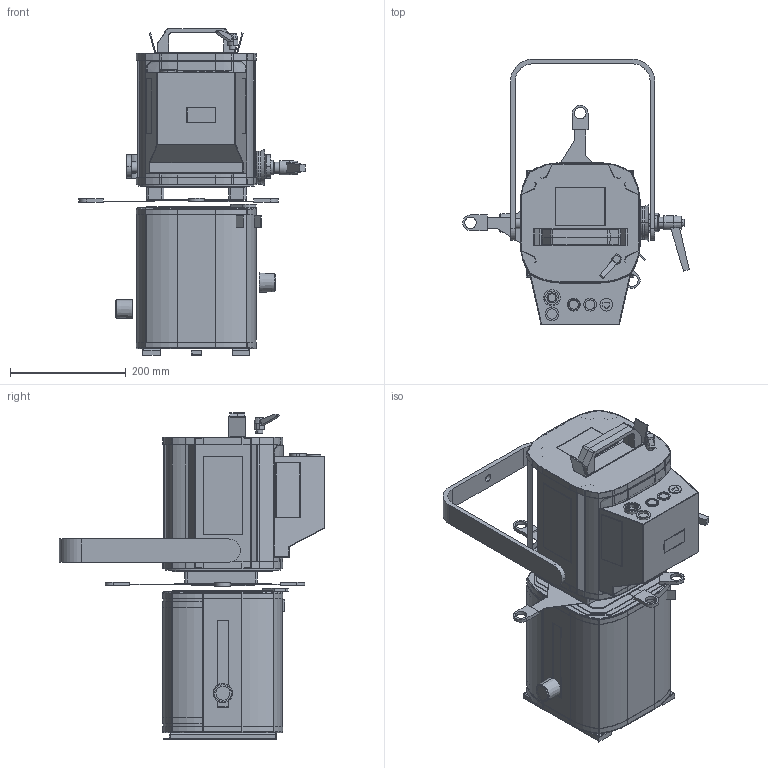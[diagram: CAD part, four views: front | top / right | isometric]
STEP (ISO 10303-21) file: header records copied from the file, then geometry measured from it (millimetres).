
FILE_DESCRIPTION (( 'STEP AP203' ), '1' );
FILE_NAME ('_CAD client__653.STEP', '2020-06-19T09:17:52', ( '' ), ( '' ), 'SwSTEP 2.0', 'SolidWorks 2019', '' );
FILE_SCHEMA (( 'CONFIG_CONTROL_DESIGN' ));
Length unit declared in the file: millimetre
Products named in the file (1): _CAD client__653
Bounding box: 391.34 x 458.85 x 564.81 mm (x, y, z)
Volume: 1368282.7 mm3; surface area: 1778591.4 mm2
Topology: 60 solids, 60 shells, 1083 faces, 2497 edges, 1562 vertices
Faces by surface type: plane 679, cylinder 333, torus 38, cone 29, bspline 4
Entity records: 30520 total; most frequent: CARTESIAN_POINT 5465, DIRECTION 5349, ORIENTED_EDGE 4994, EDGE_CURVE 2497, AXIS2_PLACEMENT_3D 1826, LINE 1697, VECTOR 1697, VERTEX_POINT 1562
